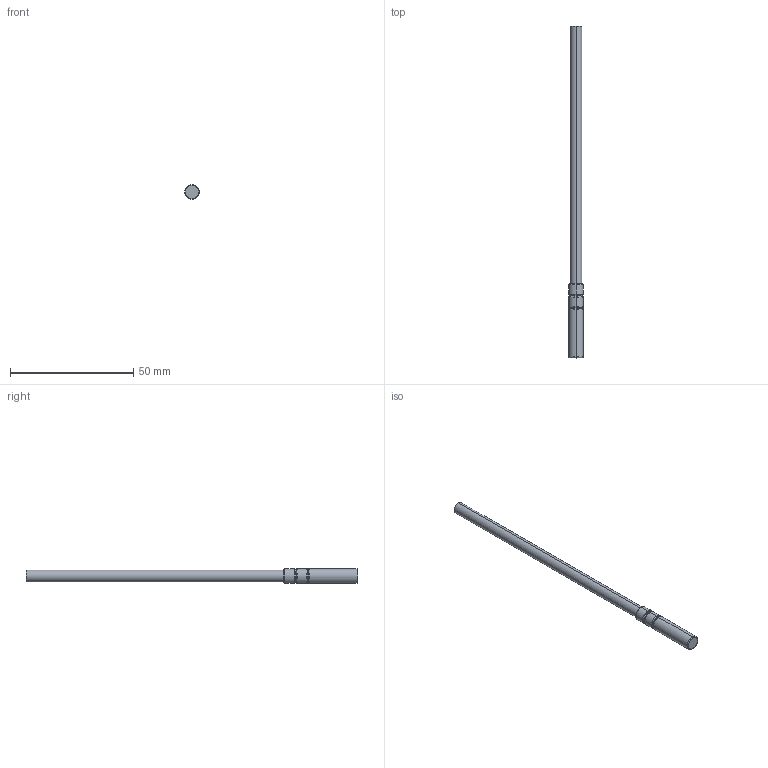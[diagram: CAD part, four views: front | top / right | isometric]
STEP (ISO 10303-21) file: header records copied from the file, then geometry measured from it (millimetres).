
FILE_DESCRIPTION (( 'STEP AP214' ), '1' );
FILE_NAME ('PT-1000.STEP', '2020-10-12T22:48:09', ( '' ), ( '' ), 'SwSTEP 2.0', 'SolidWorks 2020', '' );
FILE_SCHEMA (( 'AUTOMOTIVE_DESIGN' ));
Length unit declared in the file: millimetre
Products named in the file (1): PT-1000
Bounding box: 6 x 134.5 x 6 mm (x, y, z)
Volume: 2690.4 mm3; surface area: 2181.2 mm2
Topology: 1 solids, 1 shells, 31 faces, 60 edges, 32 vertices
Faces by surface type: torus 20, cylinder 8, plane 3
Entity records: 883 total; most frequent: DIRECTION 176, CARTESIAN_POINT 124, ORIENTED_EDGE 120, AXIS2_PLACEMENT_3D 84, EDGE_CURVE 60, CIRCLE 52, EDGE_LOOP 32, VERTEX_POINT 32
